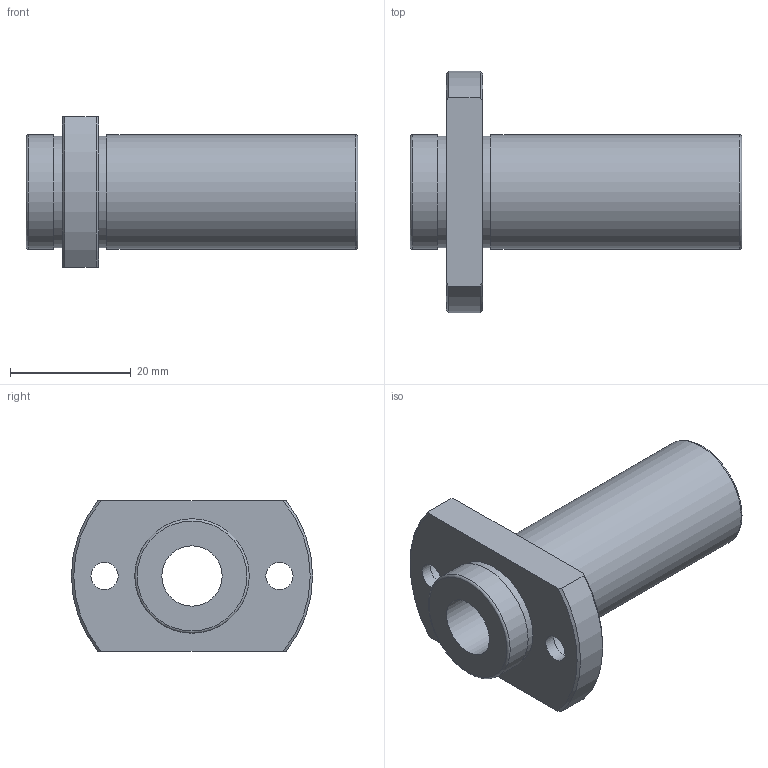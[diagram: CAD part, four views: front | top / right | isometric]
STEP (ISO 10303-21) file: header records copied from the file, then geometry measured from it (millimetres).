
FILE_DESCRIPTION(('STEP AP203'),'1');
FILE_NAME('//192.168.1.1/share/s-4 技術開発/s-4-4_CAD/s-4-4-3_見直し済み/002 修正済み/NFIO-VL(済)/NFIO-VL_TOP/NFIO-10VLUU.step','2022-03-08T01:27:18',(' '),(' '),'Spatial InterOp 3D',' ',' ');
FILE_SCHEMA(('CONFIG_CONTROL_DESIGN'));
Length unit declared in the file: millimetre
Products named in the file (1): 1
Bounding box: 55 x 40 x 25 mm (x, y, z)
Volume: 14679.1 mm3; surface area: 7246.3 mm2
Topology: 1 solids, 1 shells, 27 faces, 59 edges, 40 vertices
Faces by surface type: cylinder 11, plane 10, cone 4, torus 2
Full cylindrical faces by diameter (mm): 4.5 x2, 7.5 x2, 10 x1, 18.5 x2, 19 x2
Entity records: 730 total; most frequent: CARTESIAN_POINT 132, DIRECTION 120, ORIENTED_EDGE 88, AXIS2_PLACEMENT_3D 56, EDGE_LOOP 50, EDGE_CURVE 44, FACE_OUTER_BOUND 38, VERTEX_POINT 36
